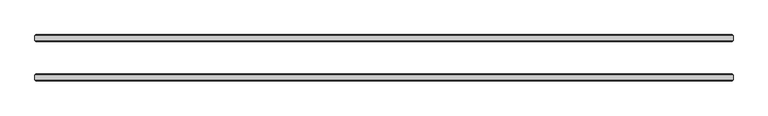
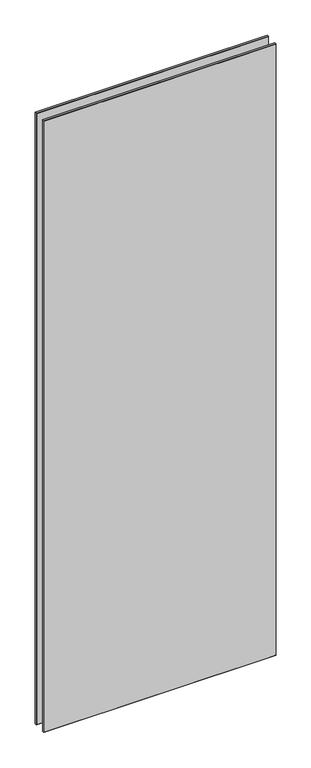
"""IFC4 building model written with IfcOpenShell, lengths in millimetres: plate geometry, 10-AMG-2-Панель двойной витраж10 : Стекло 10mm."""

from ifc_helpers import new_model, si_unit, origin, place, context, project, spatial, faceted_brep, source, transform, mapped, element, save


def plate_4803e426(model_context):
    return source(origin(), model_context, "Body", "Brep", [
        faceted_brep([(499.4848019, -31.4961653, 2758.0), (499.4848019, -24.5038347, 2758.0), (-499.4848019, -24.5038347, 2758.0), (-499.4848019, -31.4961653, 2758.0), (499.4848019, -24.5038347, -20.0), (499.4848019, -31.4961653, -20.0), (-499.4848019, -31.4961653, -20.0), (-499.4848019, -24.5038347, -20.0), (-497.9809671, -23.0, 2756.4961653), (497.9809671, -23.0, 2756.4961653), (497.9809671, -23.0, -18.5039422), (-497.9809671, -23.0, -18.5039422), (497.9809671, -33.0, 2756.4961653), (-497.9809671, -33.0, 2756.4961653), (-497.9809671, -33.0, -18.4961653), (497.9809671, -33.0, -18.4961653)], [[[0, 1, 2, 3]], [[4, 5, 6, 7]], [[8, 9, 10, 11]], [[3, 2, 7, 6]], [[12, 13, 14, 15]], [[1, 0, 5, 4]], [[1, 4, 10, 9]], [[5, 0, 12, 15]], [[0, 3, 13, 12]], [[2, 1, 9, 8]], [[7, 2, 8, 11]], [[3, 6, 14, 13]], [[6, 5, 15, 14]], [[4, 7, 11, 10]]]),
        faceted_brep([(499.4848019, 24.5038347, 2758.0), (499.4848019, 31.4961653, 2758.0), (-499.4848019, 31.4961653, 2758.0), (-499.4848019, 24.5038347, 2758.0), (499.4848019, 31.4961653, -20.0), (499.4848019, 24.5038347, -20.0), (-499.4848019, 24.5038347, -20.0), (-499.4848019, 31.4961653, -20.0), (-497.9809671, 33.0, 2756.4961653), (497.9809671, 33.0, 2756.4961653), (497.9809671, 33.0, -18.5039422), (-497.9809671, 33.0, -18.5039422), (497.9809671, 23.0, 2756.4961653), (-497.9809671, 23.0, 2756.4961653), (-497.9809671, 23.0, -18.4961653), (497.9809671, 23.0, -18.4961653)], [[[0, 1, 2, 3]], [[4, 5, 6, 7]], [[8, 9, 10, 11]], [[3, 2, 7, 6]], [[12, 13, 14, 15]], [[1, 0, 5, 4]], [[1, 4, 10, 9]], [[5, 0, 12, 15]], [[7, 2, 8, 11]], [[3, 6, 14, 13]], [[0, 3, 13, 12]], [[2, 1, 9, 8]], [[6, 5, 15, 14]], [[4, 7, 11, 10]]]),
    ])


if __name__ == "__main__":
    model = new_model("IFC4")
    model_context = context("Model", 3, world=origin())
    ifc_project = project(units=[si_unit("LENGTHUNIT", "METRE", prefix="MILLI")], contexts=[model_context])
    site = spatial("IfcSite", under=ifc_project)
    building = spatial("IfcBuilding", under=site)
    placement = place(None, origin())
    plate_shape = plate_4803e426(model_context)
    element("IfcPlate", 1, ObjectType="10-AMG-2-Панель двойной витраж10 : Стекло 10mm", at=placement, inside=building, context=model_context, shape_type="MappedRepresentation", body=[
        mapped(plate_shape, transform((0.0, 0.0, 0.0), x_axis=(1.0, 0.0, 0.0), y_axis=(0.0, 1.0, 0.0), z_axis=(0.0, 0.0, 1.0))),
    ])
    save(model, "model.ifc")
